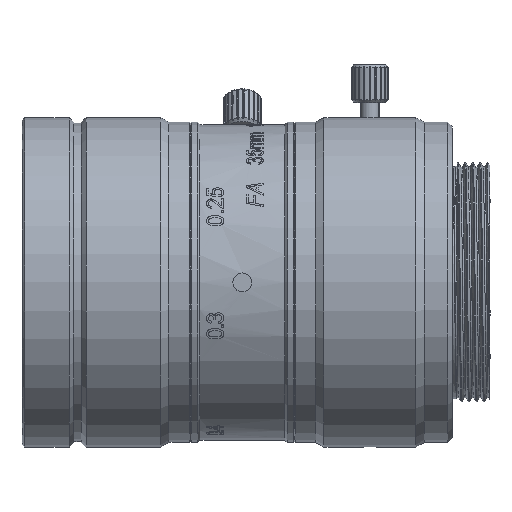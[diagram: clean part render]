
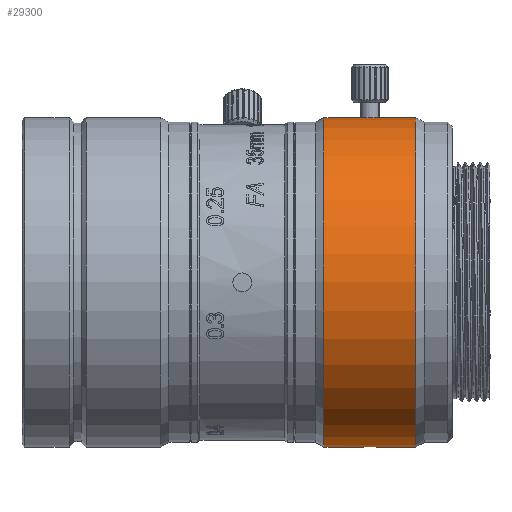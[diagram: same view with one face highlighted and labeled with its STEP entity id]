
A CAD part, front view. The second image highlights one B-rep face of the part: STEP entity #29300.
In plain terms, the highlighted cylindrical face has radius 17.5 mm (diameter 35 mm), a partial arc.
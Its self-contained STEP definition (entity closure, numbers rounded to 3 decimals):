
#375 = ORIENTED_EDGE ( 'NONE', *, *, #40297, .T. ) ;
#1595 = ORIENTED_EDGE ( 'NONE', *, *, #4514, .F. ) ;
#2313 = AXIS2_PLACEMENT_3D ( 'NONE', #10210, #49657, #36935 ) ;
#3202 = ORIENTED_EDGE ( 'NONE', *, *, #45895, .F. ) ;
#3540 = CARTESIAN_POINT ( 'NONE',  ( 22.109, -0.974, -17.473 ) ) ;
#3765 = VERTEX_POINT ( 'NONE', #57820 ) ;
#4514 = EDGE_CURVE ( 'NONE', #3765, #56922, #33270, .T. ) ;
#5135 = CIRCLE ( 'NONE', #17420, 17.5 ) ;
#5168 = CYLINDRICAL_SURFACE ( 'NONE', #2313, 17.5 ) ;
#5749 = VERTEX_POINT ( 'NONE', #12732 ) ;
#6506 = CARTESIAN_POINT ( 'NONE',  ( 22.351, -0.874, 17.478 ) ) ;
#6561 = VECTOR ( 'NONE', #51007, 1000. ) ;
#7979 = CARTESIAN_POINT ( 'NONE',  ( 21.978, -1., -17.471 ) ) ;
#8580 = CARTESIAN_POINT ( 'NONE',  ( 22.648, -0.614, -17.489 ) ) ;
#10186 = EDGE_CURVE ( 'NONE', #5749, #39383, #14971, .T. ) ;
#10210 = CARTESIAN_POINT ( 'NONE',  ( -12.134, 0., 0. ) ) ;
#10734 = DIRECTION ( 'NONE',  ( -1., 0., 0. ) ) ;
#12155 = CARTESIAN_POINT ( 'NONE',  ( 22.722, -0.504, -17.493 ) ) ;
#12441 = CARTESIAN_POINT ( 'NONE',  ( 21.049, -0.615, -17.489 ) ) ;
#12729 = CARTESIAN_POINT ( 'NONE',  ( 22.848, 0., -17.5 ) ) ;
#12732 = CARTESIAN_POINT ( 'NONE',  ( 20.848, 0., 17.5 ) ) ;
#13032 = CARTESIAN_POINT ( 'NONE',  ( 20.874, -0.262, -17.498 ) ) ;
#14214 = ORIENTED_EDGE ( 'NONE', *, *, #47776, .T. ) ;
#14971 = B_SPLINE_CURVE_WITH_KNOTS ( 'NONE', 3,
 ( #34098, #15691, #47709, #51273, #51860, #34387, #46836, #28736, #47128, #42987, #29037, #6506, #52435, #37975, #15404, #29333 ),
 .UNSPECIFIED., .F., .F.,
 ( 4, 2, 2, 2, 2, 2, 2, 4 ),
 ( 0.003, 0.004, 0.004, 0.004, 0.005, 0.005, 0.005, 0.006 ),
 .UNSPECIFIED. ) ;
#15268 = CARTESIAN_POINT ( 'NONE',  ( 16.964, 0., -17.5 ) ) ;
#15404 = CARTESIAN_POINT ( 'NONE',  ( 22.848, -0.264, 17.5 ) ) ;
#15691 = CARTESIAN_POINT ( 'NONE',  ( 20.848, -0.131, 17.5 ) ) ;
#16546 = ORIENTED_EDGE ( 'NONE', *, *, #10186, .F. ) ;
#17027 = DIRECTION ( 'NONE',  ( 0., 0., 1. ) ) ;
#17420 = AXIS2_PLACEMENT_3D ( 'NONE', #53788, #17912, #17027 ) ;
#17912 = DIRECTION ( 'NONE',  ( -1., 0., 0. ) ) ;
#18388 = VERTEX_POINT ( 'NONE', #39877 ) ;
#20200 = DIRECTION ( 'NONE',  ( -1., 0., 0. ) ) ;
#20773 = EDGE_CURVE ( 'NONE', #49572, #39383, #43925, .T. ) ;
#21021 = CARTESIAN_POINT ( 'NONE',  ( 21.717, -1., -17.471 ) ) ;
#23112 = CARTESIAN_POINT ( 'NONE',  ( 22.848, 0., -17.5 ) ) ;
#24719 = ORIENTED_EDGE ( 'NONE', *, *, #40596, .F. ) ;
#25481 = CARTESIAN_POINT ( 'NONE',  ( 26.732, 0., 17.5 ) ) ;
#25772 = CARTESIAN_POINT ( 'NONE',  ( 20.848, -0.132, -17.5 ) ) ;
#28195 = EDGE_LOOP ( 'NONE', ( #1595, #375, #43736, #16546, #14214, #24719, #3202, #48835 ) ) ;
#28736 = CARTESIAN_POINT ( 'NONE',  ( 21.585, -0.974, 17.473 ) ) ;
#28807 = AXIS2_PLACEMENT_3D ( 'NONE', #43694, #29153, #30034 ) ;
#29029 = VECTOR ( 'NONE', #10734, 1000. ) ;
#29037 = CARTESIAN_POINT ( 'NONE',  ( 22.109, -0.974, 17.473 ) ) ;
#29153 = DIRECTION ( 'NONE',  ( -1., 0., 0. ) ) ;
#29300 = ADVANCED_FACE ( 'NONE', ( #36635 ), #5168, .T. ) ;
#29333 = CARTESIAN_POINT ( 'NONE',  ( 22.848, 0., 17.5 ) ) ;
#29941 = CARTESIAN_POINT ( 'NONE',  ( 21.586, -0.974, -17.473 ) ) ;
#30034 = DIRECTION ( 'NONE',  ( 0., 0., 1. ) ) ;
#30510 = CARTESIAN_POINT ( 'NONE',  ( 21.233, -0.799, -17.482 ) ) ;
#30594 = CARTESIAN_POINT ( 'NONE',  ( -12.134, 0., -17.5 ) ) ;
#32929 = LINE ( 'NONE', #47449, #6561 ) ;
#33270 = LINE ( 'NONE', #51348, #29029 ) ;
#34098 = CARTESIAN_POINT ( 'NONE',  ( 20.848, 0., 17.5 ) ) ;
#34387 = CARTESIAN_POINT ( 'NONE',  ( 21.233, -0.799, 17.482 ) ) ;
#34993 = CARTESIAN_POINT ( 'NONE',  ( 20.848, 0., -17.5 ) ) ;
#36305 = CARTESIAN_POINT ( 'NONE',  ( 16.964, 0., 17.5 ) ) ;
#36635 = FACE_OUTER_BOUND ( 'NONE', #28195, .T. ) ;
#36935 = DIRECTION ( 'NONE',  ( 0., 0., 1. ) ) ;
#37975 = CARTESIAN_POINT ( 'NONE',  ( 22.739, -0.523, 17.493 ) ) ;
#39160 = CARTESIAN_POINT ( 'NONE',  ( 22.848, -0.131, -17.5 ) ) ;
#39236 = DIRECTION ( 'NONE',  ( -1., 0., 0. ) ) ;
#39383 = VERTEX_POINT ( 'NONE', #52254 ) ;
#39452 = CARTESIAN_POINT ( 'NONE',  ( 22.351, -0.874, -17.478 ) ) ;
#39534 = LINE ( 'NONE', #30594, #51969 ) ;
#39748 = CARTESIAN_POINT ( 'NONE',  ( 20.975, -0.504, -17.493 ) ) ;
#39877 = CARTESIAN_POINT ( 'NONE',  ( 20.848, 0., -17.5 ) ) ;
#40297 = EDGE_CURVE ( 'NONE', #3765, #49572, #5135, .T. ) ;
#40596 = EDGE_CURVE ( 'NONE', #49190, #48338, #52461, .T. ) ;
#42987 = CARTESIAN_POINT ( 'NONE',  ( 21.979, -1., 17.471 ) ) ;
#43694 = CARTESIAN_POINT ( 'NONE',  ( 16.964, 0., 0. ) ) ;
#43736 = ORIENTED_EDGE ( 'NONE', *, *, #20773, .T. ) ;
#43925 = LINE ( 'NONE', #48073, #48864 ) ;
#45895 = EDGE_CURVE ( 'NONE', #18388, #49190, #39534, .T. ) ;
#46836 = CARTESIAN_POINT ( 'NONE',  ( 21.344, -0.873, 17.478 ) ) ;
#47128 = CARTESIAN_POINT ( 'NONE',  ( 21.715, -1., 17.471 ) ) ;
#47449 = CARTESIAN_POINT ( 'NONE',  ( -12.134, 0., 17.5 ) ) ;
#47709 = CARTESIAN_POINT ( 'NONE',  ( 20.874, -0.262, 17.498 ) ) ;
#47776 = EDGE_CURVE ( 'NONE', #5749, #48338, #32929, .T. ) ;
#47912 = EDGE_CURVE ( 'NONE', #18388, #56922, #54038, .T. ) ;
#48031 = CARTESIAN_POINT ( 'NONE',  ( 21.345, -0.874, -17.478 ) ) ;
#48073 = CARTESIAN_POINT ( 'NONE',  ( -12.134, 0., 17.5 ) ) ;
#48338 = VERTEX_POINT ( 'NONE', #36305 ) ;
#48835 = ORIENTED_EDGE ( 'NONE', *, *, #47912, .T. ) ;
#48864 = VECTOR ( 'NONE', #20200, 1000. ) ;
#49190 = VERTEX_POINT ( 'NONE', #15268 ) ;
#49192 = CARTESIAN_POINT ( 'NONE',  ( 22.462, -0.801, -17.482 ) ) ;
#49572 = VERTEX_POINT ( 'NONE', #25481 ) ;
#49657 = DIRECTION ( 'NONE',  ( -1., 0., 0. ) ) ;
#51007 = DIRECTION ( 'NONE',  ( -1., 0., 0. ) ) ;
#51273 = CARTESIAN_POINT ( 'NONE',  ( 20.974, -0.503, 17.493 ) ) ;
#51348 = CARTESIAN_POINT ( 'NONE',  ( -12.134, 0., -17.5 ) ) ;
#51860 = CARTESIAN_POINT ( 'NONE',  ( 21.048, -0.614, 17.489 ) ) ;
#51969 = VECTOR ( 'NONE', #39236, 1000. ) ;
#52254 = CARTESIAN_POINT ( 'NONE',  ( 22.848, 0., 17.5 ) ) ;
#52435 = CARTESIAN_POINT ( 'NONE',  ( 22.462, -0.8, 17.482 ) ) ;
#52461 = CIRCLE ( 'NONE', #28807, 17.5 ) ;
#53788 = CARTESIAN_POINT ( 'NONE',  ( 26.732, 0., 0. ) ) ;
#54038 = B_SPLINE_CURVE_WITH_KNOTS ( 'NONE', 3,
 ( #34993, #25772, #13032, #39748, #12441, #30510, #48031, #29941, #21021, #7979, #3540, #39452, #49192, #8580, #12155, #57781, #39160, #12729 ),
 .UNSPECIFIED., .F., .F.,
 ( 4, 2, 2, 2, 2, 2, 2, 2, 4 ),
 ( 0., 0., 0.001, 0.001, 0.002, 0.002, 0.002, 0.003, 0.003 ),
 .UNSPECIFIED. ) ;
#56922 = VERTEX_POINT ( 'NONE', #23112 ) ;
#57781 = CARTESIAN_POINT ( 'NONE',  ( 22.822, -0.261, -17.498 ) ) ;
#57820 = CARTESIAN_POINT ( 'NONE',  ( 26.732, 0., -17.5 ) ) ;
